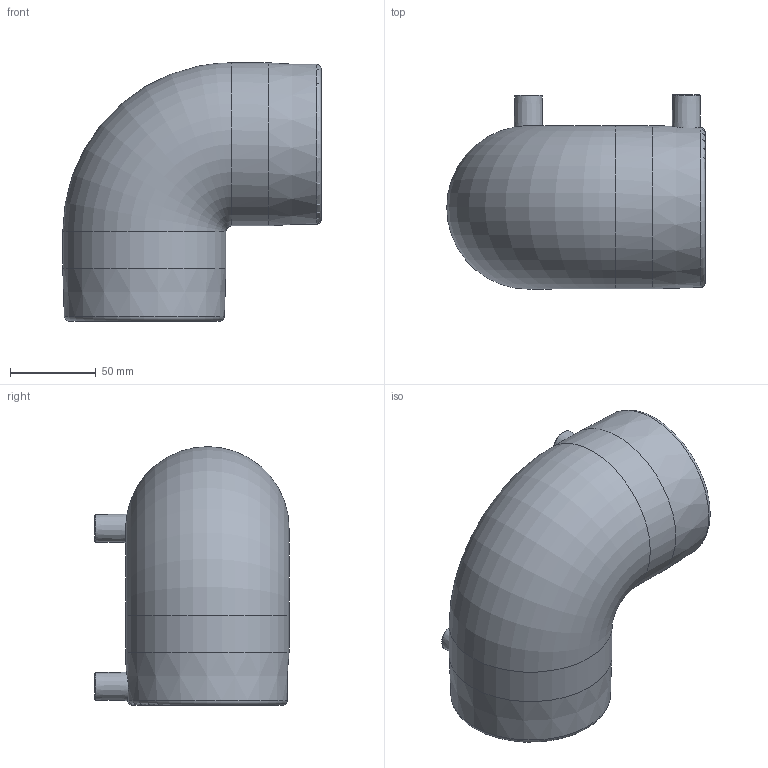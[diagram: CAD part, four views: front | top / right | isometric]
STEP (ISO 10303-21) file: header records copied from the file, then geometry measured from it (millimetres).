
FILE_DESCRIPTION(/* description */ ('Unknown'),/* implementation_level */ '2;1');
FILE_NAME(/* name */ 'GE9P075C',/* time_stamp */ '2021-06-08T14:28:48+02:00',/* author */ ('Unknown'),/* organization */ ('Unknown'),/* preprocessor_version */ 'ST-DEVELOPER v16.7',/* originating_system */ 'Solid Edge',/* authorisation */ 'Unknown');
FILE_SCHEMA (('AUTOMOTIVE_DESIGN {1 0 10303 214 3 1 1}'));
Length unit declared in the file: millimetre
Products named in the file (1): GE9P075C
Bounding box: 150.5 x 113 x 150.5 mm (x, y, z)
Volume: 528981.5 mm3; surface area: 106142 mm2
Topology: 1 solids, 1 shells, 34 faces, 74 edges, 49 vertices
Faces by surface type: plane 12, cylinder 12, torus 6, cone 4
Full cylindrical faces by diameter (mm): 4 x2, 6 x2, 12 x2, 75 x2, 95 x2
Entity records: 859 total; most frequent: CARTESIAN_POINT 239, DIRECTION 128, ORIENTED_EDGE 82, AXIS2_PLACEMENT_3D 64, EDGE_LOOP 63, FACE_BOUND 63, EDGE_CURVE 41, VERTEX_POINT 36
